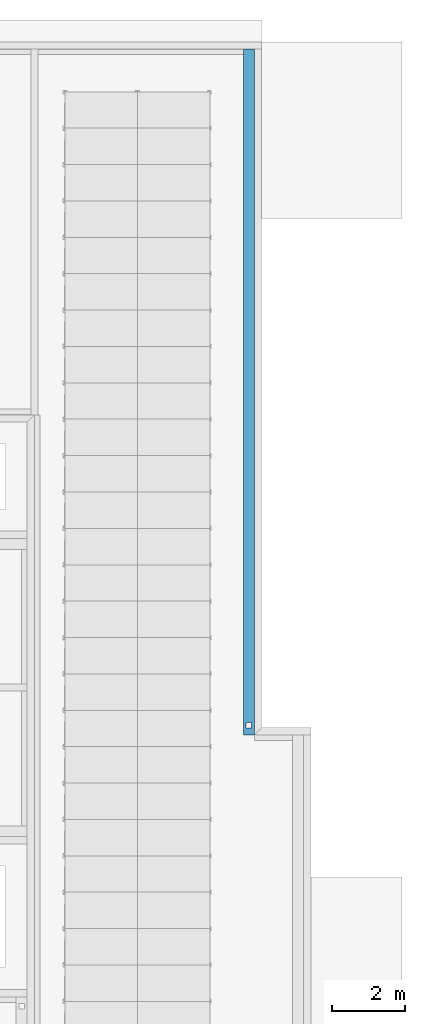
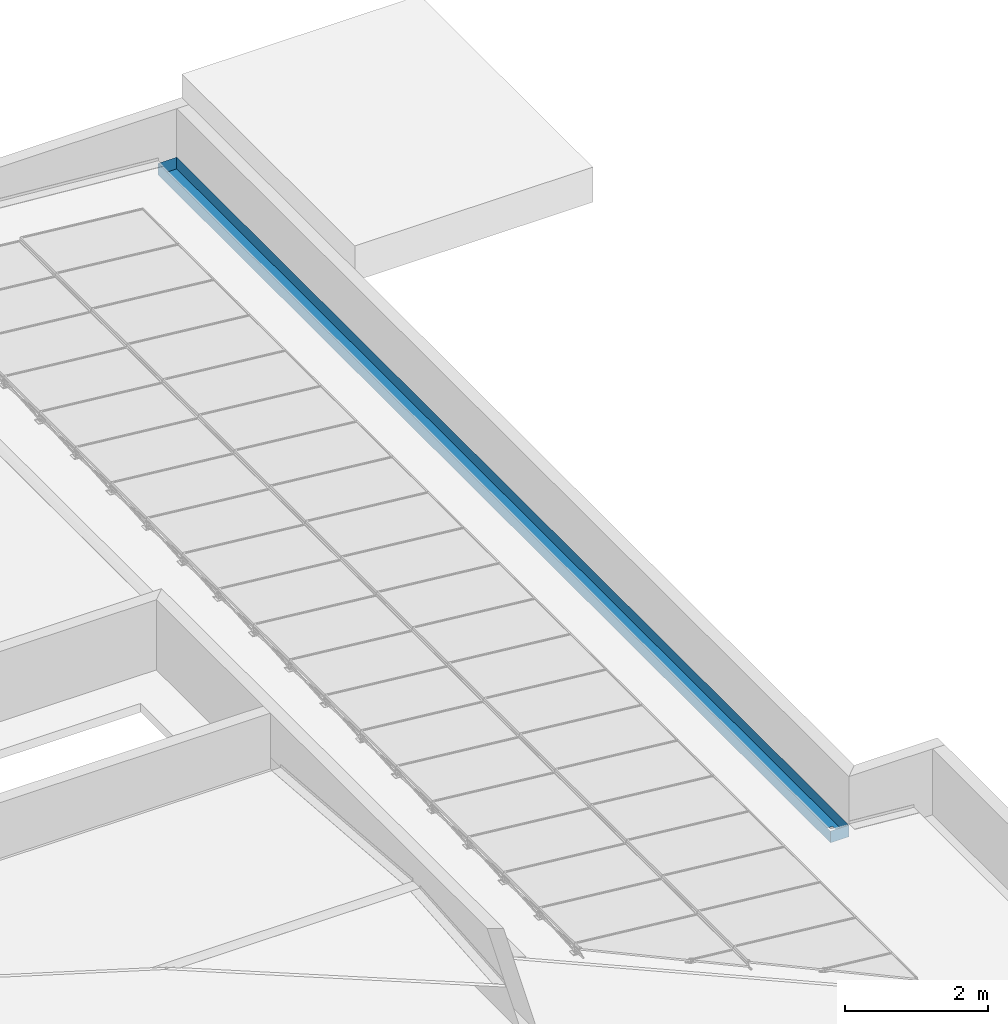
# One storey, part 2 of 5: 1 discrete accessory.
"""IFC2X3 building model written with IfcOpenShell, lengths in millimetres."""

from ifc_helpers import new_model, entity, si_unit, converted_unit, derived_unit, money_unit, direction, frame, origin_with_axes, place, context, subcontext, project, spatial, open_shell, surface_model, type_object, element, save


model = new_model("IFC2X3")

# Units and contexts
model_context = context("Model", 3, precision=0.01, world=origin_with_axes(), true_north=direction((0.0, 1.0)))
body_context = subcontext(model_context, "Body", "Model", "MODEL_VIEW")
ifc_project = project(units=[si_unit("LENGTHUNIT", "METRE", prefix="MILLI"), si_unit("AREAUNIT", "SQUARE_METRE"), si_unit("VOLUMEUNIT", "CUBIC_METRE"), converted_unit("PLANEANGLEUNIT", "DEGREE", entity("IfcPlaneAngleMeasure", 0.0174532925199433), si_unit("PLANEANGLEUNIT", "RADIAN"), dimensions=[0, 0, 0, 0, 0, 0, 0]), money_unit("USD"), converted_unit("TIMEUNIT", "Year", entity("IfcTimeMeasure", 31556926.0), si_unit("TIMEUNIT", "SECOND"), dimensions=[0, 0, 1, 0, 0, 0, 0]), si_unit("MASSUNIT", "GRAM", prefix="KILO"), si_unit("THERMODYNAMICTEMPERATUREUNIT", "DEGREE_CELSIUS"), si_unit("LUMINOUSINTENSITYUNIT", "LUMEN"), si_unit("ENERGYUNIT", "JOULE", prefix="MEGA"), derived_unit("THERMALCONDUCTANCEUNIT", [(si_unit("POWERUNIT", "WATT"), 1), (si_unit("LENGTHUNIT", "METRE"), -1), (si_unit("THERMODYNAMICTEMPERATUREUNIT", "KELVIN"), -1)]), derived_unit("SPECIFICHEATCAPACITYUNIT", [(si_unit("ENERGYUNIT", "JOULE"), 1), (si_unit("MASSUNIT", "GRAM", prefix="KILO"), -1), (si_unit("THERMODYNAMICTEMPERATUREUNIT", "KELVIN"), -1)]), derived_unit("MASSDENSITYUNIT", [(si_unit("MASSUNIT", "GRAM", prefix="KILO"), 1), (si_unit("VOLUMEUNIT", "CUBIC_METRE"), -1)])], contexts=[model_context])

# Site, building, storey
site_placement = place(None, origin_with_axes())
site = spatial("IfcSite", under=ifc_project, at=site_placement, Name="Site", CompositionType="ELEMENT")
building_placement = place(site_placement, origin_with_axes())
building = spatial("IfcBuilding", under=site, at=building_placement, Name="Building", CompositionType="ELEMENT")
storey_placement = place(building_placement, frame((0.0, 0.0, 3650.0), z_axis=(0.0, 0.0, 1.0), x_axis=(1.0, 0.0, 0.0)))
storey = spatial("IfcBuildingStorey", under=building, at=storey_placement, Name="COBERTURA", CompositionType="ELEMENT", Elevation=3650.0)

# Discrete accessory
discrete_accessory_type = type_object("IfcDiscreteAccessoryType", Name="Gutter 26")
discrete_accessory_placement = place(storey_placement, frame((251674.2934805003, 5631.239326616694, 370.1391507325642), z_axis=(0.0, 0.0, 1.0), x_axis=(5.311992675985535e-06, 0.9999999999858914, 0.0)))
element("IfcDiscreteAccessory", 1, at=discrete_accessory_placement, inside=storey, type_object=discrete_accessory_type, Name="Calha 03", context=body_context, shape_type="SurfaceModel", body=[
    surface_model("IfcShellBasedSurfaceModel", [(0.0, 150.0, -200.0), (-18849.84361808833, 150.0000000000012, -200.0000000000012), (-18849.84361808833, -149.9999999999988, -200.0000000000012), (0.0, -150.0, -200.0), (-18664.84361808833, 75.0, -200.0000000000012), (-18514.84361808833, 75.0, -200.0000000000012), (-18514.84361808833, -75.0, -200.0000000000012), (-18664.84361808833, -75.0, -200.0000000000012), (-18849.84361808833, 150.0000000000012, 0.0), (0.0, 150.0, 0.0), (-18849.84361808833, -149.9999999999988, 0.0), (0.0, -150.0, 0.0)], [open_shell([[[0, 1, 2, 3], [4, 5, 6, 7]], [[8, 1, 0, 9]], [[2, 10, 11, 3]]])]),
    surface_model("IfcShellBasedSurfaceModel", [(0.0, 150.0, 0.0), (0.0, -150.0, 0.0), (0.0, -150.0, -200.0), (0.0, 150.0, -200.0)], [open_shell([[[0, 1, 2, 3]]])]),
    surface_model("IfcShellBasedSurfaceModel", [(-18849.84361808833, 150.0, 0.0), (-18849.84361808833, -150.0, 0.0), (-18849.84361808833, -150.0, -200.0), (-18849.84361808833, 150.0, -200.0)], [open_shell([[[0, 1, 2, 3]]])]),
])

save(model, "model.ifc")
